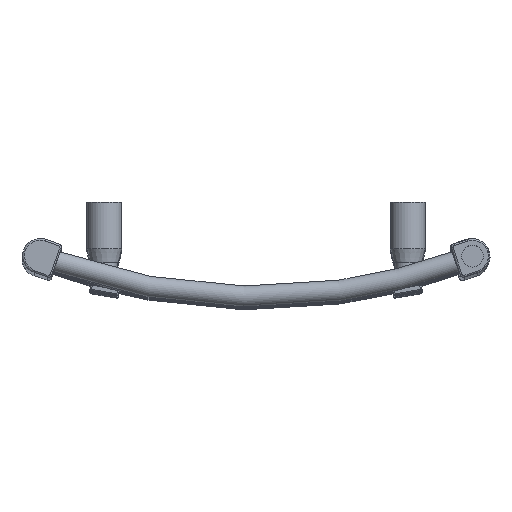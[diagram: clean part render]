
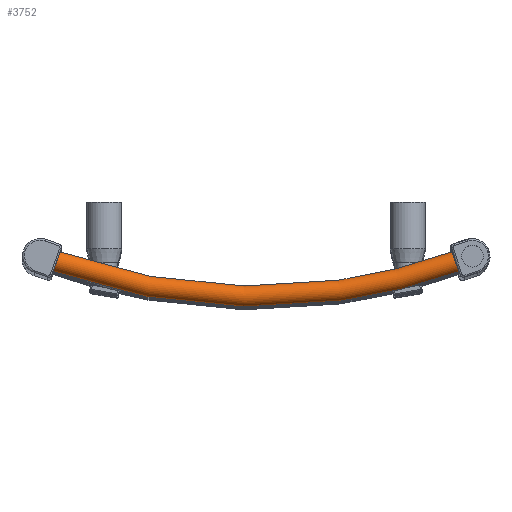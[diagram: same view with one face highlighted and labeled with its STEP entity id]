
A CAD part, top view. The second image highlights one B-rep face of the part: STEP entity #3752.
In plain terms, the highlighted toroidal (fillet/blend) face has major radius 505 mm and minor radius 9 mm.
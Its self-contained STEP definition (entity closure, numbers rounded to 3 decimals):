
#3725=CARTESIAN_POINT('',(0.,505.0,1449.));
#3726=DIRECTION('',(0.,0.,1.0));
#3727=DIRECTION('',(1.0,0.0,0.0));
#3728=AXIS2_PLACEMENT_3D('',#3725,#3726,#3727);
#3729=TOROIDAL_SURFACE('',#3728,505.,9.);
#3730=CARTESIAN_POINT('',(167.839,38.26,1449.));
#3731=VERTEX_POINT('',#3730);
#3732=CARTESIAN_POINT('',(170.885,29.791,1449.0));
#3733=DIRECTION('',(0.941,0.338,0.));
#3734=DIRECTION('',(0.338,-0.941,0.));
#3735=AXIS2_PLACEMENT_3D('',#3732,#3733,#3734);
#3736=CIRCLE('',#3735,9.);
#3737=EDGE_CURVE('',#3731,#3731,#3736,.T.);
#3738=ORIENTED_EDGE('',*,*,#3737,.F.);
#3739=EDGE_LOOP('',(#3738));
#3740=FACE_OUTER_BOUND('',#3739,.T.);
#3741=CARTESIAN_POINT('',(-167.839,38.26,1449.));
#3742=VERTEX_POINT('',#3741);
#3743=CARTESIAN_POINT('',(-170.885,29.791,1449.));
#3744=DIRECTION('',(-0.941,0.338,0.));
#3745=DIRECTION('',(-0.338,-0.941,0.));
#3746=AXIS2_PLACEMENT_3D('',#3743,#3744,#3745);
#3747=CIRCLE('',#3746,9.);
#3748=EDGE_CURVE('',#3742,#3742,#3747,.T.);
#3749=ORIENTED_EDGE('',*,*,#3748,.F.);
#3750=EDGE_LOOP('',(#3749));
#3751=FACE_BOUND('',#3750,.T.);
#3752=ADVANCED_FACE('',(#3740,#3751),#3729,.T.);
